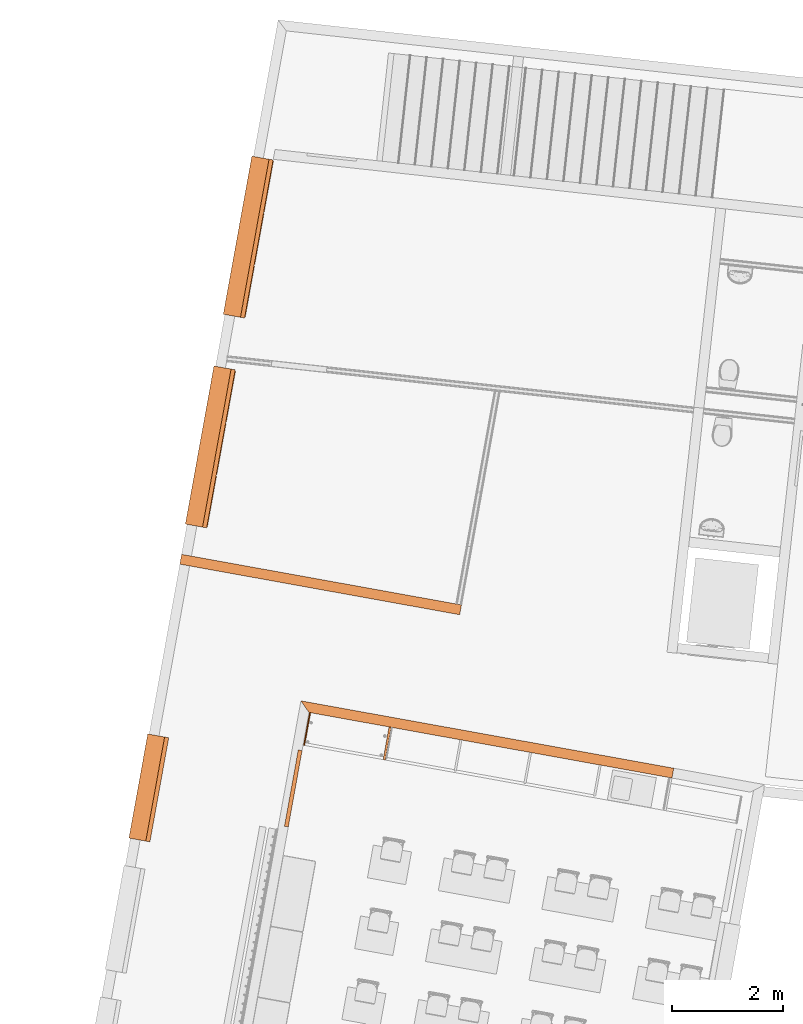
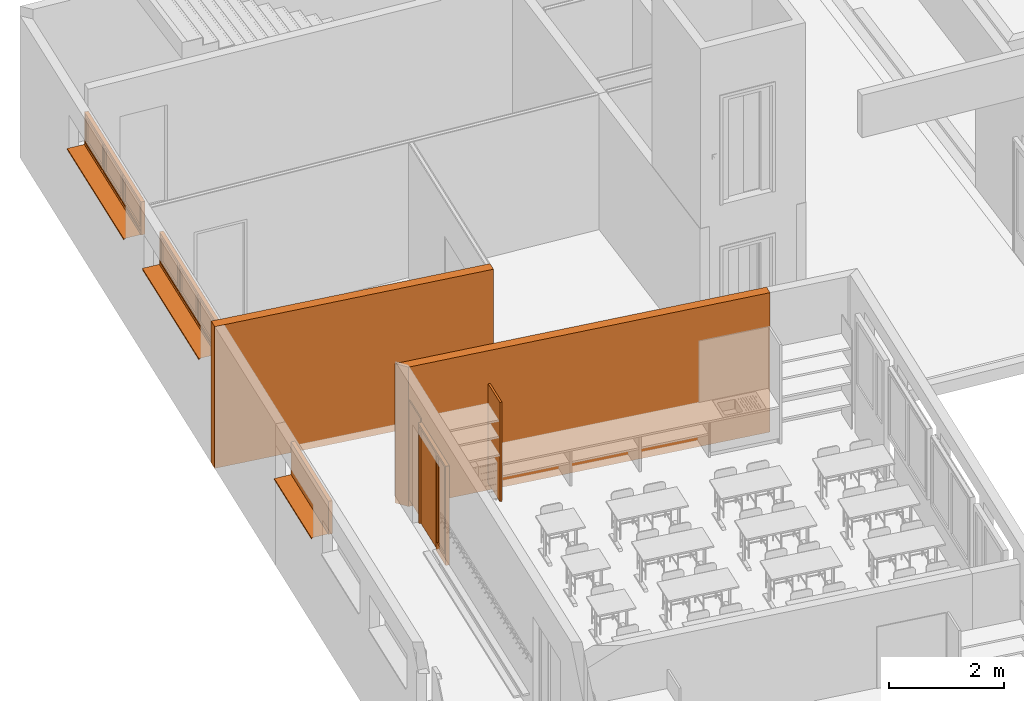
# One storey, part 48 of 79: 8 proxies.
"""IFC2X3 building model written with IfcOpenShell, lengths in metres."""

from ifc_helpers import new_model, entity, si_unit, converted_unit, derived_unit, money_unit, direction, frame, origin_with_axes, place, context, subcontext, project, spatial, polyline, outline, extrude, open_shell, faceted_brep, surface_model, source, transform, mapped, material, type_object, element, save


model = new_model("IFC2X3")

# Units and contexts
model_context = context("Model", 3, precision=1e-05, world=origin_with_axes(), true_north=direction((0.0, 1.0)))
body_context = subcontext(model_context, "Body", "Model", "MODEL_VIEW")
ifc_project = project(units=[si_unit("LENGTHUNIT", "METRE"), si_unit("AREAUNIT", "SQUARE_METRE"), si_unit("VOLUMEUNIT", "CUBIC_METRE"), converted_unit("PLANEANGLEUNIT", "DEGREE", entity("IfcPlaneAngleMeasure", 0.0174532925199), si_unit("PLANEANGLEUNIT", "RADIAN"), dimensions=[0, 0, 0, 0, 0, 0, 0]), money_unit("CHF"), converted_unit("TIMEUNIT", "Year", entity("IfcTimeMeasure", 31556926.0), si_unit("TIMEUNIT", "SECOND"), dimensions=[0, 0, 1, 0, 0, 0, 0]), si_unit("MASSUNIT", "GRAM", prefix="KILO"), si_unit("THERMODYNAMICTEMPERATUREUNIT", "DEGREE_CELSIUS"), si_unit("LUMINOUSINTENSITYUNIT", "LUMEN"), si_unit("ENERGYUNIT", "JOULE", prefix="MEGA"), derived_unit("THERMALCONDUCTANCEUNIT", [(si_unit("POWERUNIT", "WATT"), 1), (si_unit("LENGTHUNIT", "METRE"), -1), (si_unit("THERMODYNAMICTEMPERATUREUNIT", "KELVIN"), -1)]), derived_unit("SPECIFICHEATCAPACITYUNIT", [(si_unit("ENERGYUNIT", "JOULE"), 1), (si_unit("MASSUNIT", "GRAM", prefix="KILO"), -1), (si_unit("THERMODYNAMICTEMPERATUREUNIT", "KELVIN"), -1)]), derived_unit("MASSDENSITYUNIT", [(si_unit("MASSUNIT", "GRAM", prefix="KILO"), 1), (si_unit("VOLUMEUNIT", "CUBIC_METRE"), -1)])], contexts=[model_context])

# Site, building, storey
site_placement = place(None, frame((0.0, 0.0, 0.0), z_axis=(0.0, 0.0, 1.0), x_axis=(-0.177771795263, -0.984071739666, 0.0)))
site = spatial("IfcSite", under=ifc_project, at=site_placement, Name="Site", CompositionType="ELEMENT")
building_placement = place(site_placement, origin_with_axes())
building = spatial("IfcBuilding", under=site, at=building_placement, Name="Bâtiment", CompositionType="ELEMENT")
storey_placement = place(building_placement, origin_with_axes())
storey = spatial("IfcBuildingStorey", under=building, at=storey_placement, Name="RDC", CompositionType="ELEMENT", Elevation=0.0)

# Proxies
ifc_material_1 = material(Name="_BA banché RAL9007")
building_element_proxy_type_1 = type_object("IfcBuildingElementProxyType", Name="_BA banché RAL9007 180", PredefinedType="NOTDEFINED")
proxy_1_placement = place(storey_placement, frame((109.924841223, -156.627151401, -0.15), z_axis=(0.0, 0.0, 1.0), x_axis=(0.0, 1.0, 0.0)))
element("IfcBuildingElementProxy", 1, at=proxy_1_placement, inside=storey, type_object=building_element_proxy_type_1, material=ifc_material_1, Name="M refend", context=body_context, shape_type="SweptSolid", body=[
    extrude(outline(polyline([(0.180000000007, -0.18), (6.84100000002, -0.18), (6.84100000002, 0.0), (0.0, 0.0), (0.180000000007, -0.18)])), origin_with_axes(), (0.0, 0.0, 1.0), 2.95),
])
ifc_material_2 = material(Name="Matériau de construction IFC")
building_element_proxy_type_2 = type_object("IfcBuildingElementProxyType", Name="Fenêtre variable 21", PredefinedType="NOTDEFINED")
shared_shape_1 = source(origin_with_axes(), body_context, "Body", "SurfaceModel", [
    surface_model("IfcShellBasedSurfaceModel", [(0.0, 0.284, 0.02), (0.0, 0.284, 0.01), (1.91, 0.284, 0.01), (1.91, 0.284, 0.02), (0.0, -0.025, -0.00087719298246), (1.91, -0.025, -0.00087719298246), (0.0, -0.025, -0.0308771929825), (1.91, -0.025, -0.0308771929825), (0.0, -0.0125, -0.0183771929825), (1.91, -0.0125, -0.0183771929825)], [open_shell([[[0, 1, 2, 3]], [[1, 4, 5, 2]], [[4, 6, 7, 5]], [[6, 8, 9, 7]]])]),
    faceted_brep([(0.075, 0.285, 0.625), (0.075, 0.36, 0.625), (0.0, 0.36, 0.625), (0.0, 0.285, 0.625), (0.075, 0.285, 0.075), (0.075, 0.36, 0.075), (0.0, 0.36, 0.075), (0.0, 0.285, 0.075)], [[[0, 1, 2, 3]], [[4, 5, 1, 0]], [[1, 5, 6, 2]], [[3, 2, 6, 7]], [[0, 3, 7, 4]], [[7, 6, 5, 4]]]),
    faceted_brep([(1.835, 0.285, 0.075), (1.835, 0.36, 0.075), (1.91, 0.36, 0.075), (1.91, 0.285, 0.075), (1.835, 0.285, 0.625), (1.835, 0.36, 0.625), (1.91, 0.36, 0.625), (1.91, 0.285, 0.625)], [[[0, 1, 2, 3]], [[4, 5, 1, 0]], [[1, 5, 6, 2]], [[3, 2, 6, 7]], [[0, 3, 7, 4]], [[7, 6, 5, 4]]]),
    faceted_brep([(0.075, 0.285, 0.075), (0.075, 0.36, 0.075), (0.0, 0.36, 0.075), (0.0, 0.285, 0.075), (1.835, 0.285, 0.075), (1.835, 0.36, 0.075), (1.91, 0.36, 0.075), (1.91, 0.36, 0.0), (0.0, 0.36, 0.0), (0.0, 0.285, 0.0), (1.91, 0.285, 0.0), (1.91, 0.285, 0.075)], [[[0, 1, 2, 3]], [[4, 5, 1, 0]], [[1, 5, 6, 7, 8, 2]], [[3, 2, 8, 9]], [[0, 3, 9, 10, 11, 4]], [[11, 6, 5, 4]], [[10, 7, 6, 11]], [[9, 8, 7, 10]]]),
    faceted_brep([(1.835, 0.285, 0.625), (1.835, 0.36, 0.625), (1.91, 0.36, 0.625), (1.91, 0.285, 0.625), (0.075, 0.285, 0.625), (0.075, 0.36, 0.625), (0.0, 0.36, 0.625), (0.0, 0.36, 0.7), (1.91, 0.36, 0.7), (1.91, 0.285, 0.7), (0.0, 0.285, 0.7), (0.0, 0.285, 0.625)], [[[0, 1, 2, 3]], [[4, 5, 1, 0]], [[1, 5, 6, 7, 8, 2]], [[3, 2, 8, 9]], [[0, 3, 9, 10, 11, 4]], [[11, 6, 5, 4]], [[10, 7, 6, 11]], [[9, 8, 7, 10]]]),
    surface_model("IfcShellBasedSurfaceModel", [(0.075, 0.285, 0.075), (1.835, 0.285, 0.075), (1.835, 0.285, 0.625), (0.075, 0.285, 0.625)], [open_shell([[[0, 1, 2, 3]]])]),
    surface_model("IfcShellBasedSurfaceModel", [(0.075, 0.305, 0.075), (0.075, 0.305, 0.625), (1.835, 0.305, 0.625), (1.835, 0.305, 0.075)], [open_shell([[[0, 1, 2, 3]]])]),
])
proxy_2_placement = place(storey_placement, frame((111.004841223, -159.217107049, 1.7), z_axis=(0.0, 0.0, 1.0), x_axis=(1.0, 0.0, 0.0)))
element("IfcBuildingElementProxy", 2, at=proxy_2_placement, inside=storey, type_object=building_element_proxy_type_2, material=ifc_material_2, Name="Fen couloir", context=body_context, shape_type="MappedRepresentation", body=[
    mapped(shared_shape_1, transform((0.0, 0.0, 0.0))),
])
ifc_material_3 = material(Name="_panneau mélaminé")
building_element_proxy_type_3 = type_object("IfcBuildingElementProxyType", Name="_panneau mélaminé 40", PredefinedType="NOTDEFINED")
proxy_3_placement = place(storey_placement, frame((110.704841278, -154.978236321, 0.0), z_axis=(0.0, 0.0, 1.0), x_axis=(-1.0, 0.0, 0.0)))
element("IfcBuildingElementProxy", 3, at=proxy_3_placement, inside=storey, type_object=building_element_proxy_type_3, material=ifc_material_3, Name="cloison-fd-classe G", context=body_context, shape_type="SweptSolid", body=[
    extrude(outline(polyline([(0.0, -0.04), (0.600000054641, -0.04), (0.600000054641, 0.0), (0.0, 0.0), (0.0, -0.04)])), origin_with_axes(), (0.0, 0.0, 1.0), 2.1),
])
building_element_proxy_type_4 = type_object("IfcBuildingElementProxyType", Name="_panneau mélaminé 19", PredefinedType="NOTDEFINED")
proxy_4_placement = place(storey_placement, frame((110.704841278, -156.418151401, 0.0), z_axis=(0.0, 0.0, 1.0), x_axis=(-1.0, 0.0, 0.0)))
element("IfcBuildingElementProxy", 4, at=proxy_4_placement, inside=storey, type_object=building_element_proxy_type_4, material=ifc_material_3, Name="cloison-fd-classe G", context=body_context, shape_type="SweptSolid", body=[
    extrude(outline(polyline([(0.0, 0.0), (0.600000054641, 0.0), (0.600000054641, 0.019), (0.0, 0.019), (0.0, 0.0)])), origin_with_axes(), (0.0, 0.0, 1.0), 2.1),
])
building_element_proxy_type_5 = type_object("IfcBuildingElementProxyType", Name="Porte avec tierce vitrée côté 2 21", PredefinedType="NOTDEFINED")
shared_shape_2 = source(origin_with_axes(), body_context, "Body", "SurfaceModel", [
    faceted_brep([(1.4, 0.180000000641, 0.0), (1.4, 0.110000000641, 0.0), (1.35, 0.110000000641, 0.0), (1.35, 0.180000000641, 0.0), (1.4, 0.180000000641, 2.05), (1.4, 0.110000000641, 2.05), (1.35, 0.110000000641, 2.05), (1.35, 0.110000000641, 0.2), (1.35, 0.180000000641, 0.2), (1.35, 0.180000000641, 2.05)], [[[0, 1, 2, 3]], [[4, 5, 1, 0]], [[1, 5, 6, 7, 2]], [[3, 2, 7, 8]], [[0, 3, 8, 9, 4]], [[9, 6, 5, 4]], [[8, 7, 6, 9]]]),
    faceted_brep([(0.91, 0.140000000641, 0.0), (0.91, 0.110000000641, 0.0), (0.91, 0.110000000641, 2.05), (0.91, 0.140000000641, 2.05), (0.93, 0.140000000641, 0.0), (0.93, 0.180000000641, 0.0), (0.96, 0.180000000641, 0.0), (0.96, 0.110000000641, 0.0), (0.96, 0.110000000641, 0.2), (0.96, 0.110000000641, 2.05), (0.93, 0.140000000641, 2.05), (0.96, 0.180000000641, 2.05), (0.93, 0.180000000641, 2.05), (0.96, 0.180000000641, 0.2)], [[[0, 1, 2, 3]], [[4, 5, 6, 7, 1, 0]], [[7, 8, 9, 2, 1]], [[10, 3, 2, 9, 11, 12]], [[10, 4, 0, 3]], [[12, 5, 4, 10]], [[12, 11, 13, 6, 5]], [[6, 13, 8, 7]], [[13, 11, 9, 8]]]),
    faceted_brep([(1.35, 0.180000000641, 0.2), (1.35, 0.110000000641, 0.2), (1.35, 0.110000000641, 0.0), (1.35, 0.180000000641, 0.0), (0.96, 0.180000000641, 0.2), (0.96, 0.110000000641, 0.2), (0.96, 0.110000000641, 0.0), (0.96, 0.180000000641, 0.0)], [[[0, 1, 2, 3]], [[4, 5, 1, 0]], [[1, 5, 6, 2]], [[3, 2, 6, 7]], [[0, 3, 7, 4]], [[7, 6, 5, 4]]]),
    faceted_brep([(0.03, 0.140000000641, 2.05), (0.03, 0.180000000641, 2.05), (0.0, 0.180000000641, 2.05), (0.0, 0.110000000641, 2.05), (0.05, 0.110000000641, 2.05), (0.05, 0.140000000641, 2.05), (0.03, 0.140000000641, 0.0), (0.03, 0.180000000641, 0.0), (0.0, 0.180000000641, 0.0), (0.0, 0.110000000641, 0.0), (0.05, 0.110000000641, 0.0), (0.05, 0.140000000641, 0.0)], [[[0, 1, 2, 3, 4, 5]], [[0, 6, 7, 1]], [[7, 8, 2, 1]], [[2, 8, 9, 3]], [[3, 9, 10, 4]], [[5, 4, 10, 11]], [[5, 11, 6, 0]], [[6, 11, 10, 9, 8, 7]]]),
    faceted_brep([(0.93, 0.180000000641, 2.07), (0.03, 0.180000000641, 2.07), (0.03, 0.180000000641, 2.05), (0.0, 0.180000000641, 2.05), (0.0, 0.180000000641, 2.1), (1.4, 0.180000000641, 2.1), (1.4, 0.180000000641, 2.05), (1.35, 0.180000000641, 2.05), (0.96, 0.180000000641, 2.05), (0.93, 0.180000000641, 2.05), (0.93, 0.140000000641, 2.07), (0.03, 0.140000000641, 2.07), (0.03, 0.140000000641, 2.05), (0.05, 0.140000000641, 2.05), (0.05, 0.110000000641, 2.05), (0.0, 0.110000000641, 2.05), (0.0, 0.110000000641, 2.1), (1.4, 0.110000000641, 2.1), (1.4, 0.110000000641, 2.05), (1.35, 0.110000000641, 2.05), (0.96, 0.110000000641, 2.05), (0.93, 0.140000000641, 2.05), (0.91, 0.110000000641, 2.05)], [[[0, 1, 2, 3, 4, 5, 6, 7, 8, 9]], [[0, 10, 11, 1]], [[1, 11, 12, 2]], [[12, 13, 14, 15, 3, 2]], [[4, 3, 15, 16]], [[5, 4, 16, 17]], [[6, 5, 17, 18]], [[7, 6, 18, 19]], [[8, 7, 19, 20]], [[21, 9, 8, 20, 22, 14, 13]], [[9, 21, 10, 0]], [[12, 11, 10, 21, 13]], [[14, 22, 20, 19, 18, 17, 16, 15]]]),
    faceted_brep([(0.03, 0.180000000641, 0.0), (0.93, 0.180000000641, 0.0), (0.93, 0.140000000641, 0.0), (0.03, 0.140000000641, 0.0), (0.03, 0.180000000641, 2.07), (0.93, 0.180000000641, 2.07), (0.93, 0.140000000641, 2.07), (0.03, 0.140000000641, 2.07)], [[[0, 1, 2, 3]], [[0, 4, 5, 1]], [[1, 5, 6, 2]], [[3, 2, 6, 7]], [[4, 0, 3, 7]], [[5, 4, 7, 6]]]),
    surface_model("IfcShellBasedSurfaceModel", [(1.35, 0.145000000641, 0.2), (0.96, 0.145000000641, 0.2), (0.96, 0.145000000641, 2.05), (1.35, 0.145000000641, 2.05)], [open_shell([[[0, 1, 2, 3]]])]),
    surface_model("IfcShellBasedSurfaceModel", [(1.35, 0.135000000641, 0.2), (1.35, 0.135000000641, 2.05), (0.96, 0.135000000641, 2.05), (0.96, 0.135000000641, 0.2)], [open_shell([[[0, 1, 2, 3]]])]),
])
proxy_5_placement = place(storey_placement, frame((110.804841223, -156.627151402, 0.0), z_axis=(0.0, 0.0, 1.0), x_axis=(1.0, 0.0, 0.0)))
element("IfcBuildingElementProxy", 5, at=proxy_5_placement, inside=storey, type_object=building_element_proxy_type_5, material=ifc_material_2, Name="1", context=body_context, shape_type="MappedRepresentation", body=[
    mapped(shared_shape_2, transform((0.0, 0.0, 0.0))),
])
building_element_proxy_type_6 = type_object("IfcBuildingElementProxyType", Name="Fenêtre horizontale à châssis multiples 21", PredefinedType="NOTDEFINED")
shared_shape_3 = source(origin_with_axes(), body_context, "Body", "SurfaceModel", [
    surface_model("IfcShellBasedSurfaceModel", [(2.9, 0.284, 0.02), (0.0, 0.284, 0.02), (0.0, 0.284, 0.01), (2.9, 0.284, 0.01), (0.0, -0.03, -0.00105263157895), (2.9, -0.03, -0.00105263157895), (0.0, -0.03, -0.0310526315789), (2.9, -0.03, -0.0310526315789), (0.0, -0.015, -0.0160526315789), (2.9, -0.015, -0.0160526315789)], [open_shell([[[0, 1, 2, 3]], [[3, 2, 4, 5]], [[5, 4, 6, 7]], [[7, 6, 8, 9]]])]),
    faceted_brep([(2.88, 0.36, 0.67), (2.88, 0.295, 0.67), (2.87, 0.295, 0.67), (2.87, 0.285, 0.67), (2.9, 0.285, 0.67), (2.9, 0.36, 0.67), (2.88, 0.36, 0.07), (2.88, 0.295, 0.07), (2.87, 0.295, 0.07), (2.87, 0.285, 0.07), (2.9, 0.285, 0.07), (2.9, 0.36, 0.07)], [[[0, 1, 2, 3, 4, 5]], [[1, 0, 6, 7]], [[8, 2, 1, 7]], [[2, 8, 9, 3]], [[4, 3, 9, 10]], [[5, 4, 10, 11]], [[6, 0, 5, 11]], [[7, 6, 11, 10, 9, 8]]]),
    faceted_brep([(0.03, 0.295, 0.67), (0.02, 0.295, 0.67), (0.02, 0.36, 0.67), (0.0, 0.36, 0.67), (0.0, 0.285, 0.67), (0.03, 0.285, 0.67), (0.03, 0.295, 0.07), (0.02, 0.295, 0.07), (0.02, 0.36, 0.07), (0.0, 0.36, 0.07), (0.0, 0.285, 0.07), (0.03, 0.285, 0.07)], [[[0, 1, 2, 3, 4, 5]], [[1, 0, 6, 7]], [[8, 2, 1, 7]], [[2, 8, 9, 3]], [[9, 10, 4, 3]], [[10, 11, 5, 4]], [[6, 0, 5, 11]], [[7, 6, 11, 10, 9, 8]]]),
    faceted_brep([(1.91666666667, 0.36, 0.67), (1.91666666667, 0.36, 0.68), (0.983333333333, 0.36, 0.68), (0.983333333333, 0.36, 0.67), (0.953333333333, 0.36, 0.67), (0.953333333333, 0.36, 0.68), (0.02, 0.36, 0.68), (0.02, 0.36, 0.67), (0.0, 0.36, 0.67), (0.0, 0.36, 0.7), (2.9, 0.36, 0.7), (2.9, 0.36, 0.67), (2.88, 0.36, 0.67), (2.88, 0.36, 0.68), (1.94666666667, 0.36, 0.68), (1.94666666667, 0.36, 0.67), (1.91666666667, 0.295, 0.67), (1.91666666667, 0.295, 0.68), (0.983333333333, 0.295, 0.68), (0.983333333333, 0.295, 0.67), (0.993333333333, 0.295, 0.67), (0.993333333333, 0.285, 0.67), (0.943333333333, 0.285, 0.67), (0.943333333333, 0.295, 0.67), (0.953333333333, 0.295, 0.67), (0.953333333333, 0.295, 0.68), (0.02, 0.295, 0.68), (0.02, 0.295, 0.67), (0.03, 0.295, 0.67), (0.03, 0.285, 0.67), (0.0, 0.285, 0.67), (0.0, 0.285, 0.7), (2.9, 0.285, 0.7), (2.9, 0.285, 0.67), (2.88, 0.295, 0.67), (2.87, 0.285, 0.67), (2.87, 0.295, 0.67), (2.88, 0.295, 0.68), (1.94666666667, 0.295, 0.68), (1.94666666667, 0.295, 0.67), (1.95666666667, 0.295, 0.67), (1.95666666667, 0.285, 0.67), (1.90666666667, 0.285, 0.67), (1.90666666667, 0.295, 0.67)], [[[0, 1, 2, 3, 4, 5, 6, 7, 8, 9, 10, 11, 12, 13, 14, 15]], [[1, 0, 16, 17]], [[2, 1, 17, 18]], [[3, 2, 18, 19]], [[19, 20, 21, 22, 23, 24, 4, 3]], [[5, 4, 24, 25]], [[6, 5, 25, 26]], [[7, 6, 26, 27]], [[27, 28, 29, 30, 8, 7]], [[8, 30, 31, 9]], [[9, 31, 32, 10]], [[10, 32, 33, 11]], [[34, 12, 11, 33, 35, 36]], [[13, 12, 34, 37]], [[14, 13, 37, 38]], [[15, 14, 38, 39]], [[16, 0, 15, 39, 40, 41, 42, 43]], [[20, 19, 18, 17, 16, 43]], [[20, 43, 42, 21]], [[30, 29, 22, 21, 42, 41, 35, 33, 32, 31]], [[28, 23, 22, 29]], [[28, 27, 26, 25, 24, 23]], [[40, 36, 35, 41]], [[40, 39, 38, 37, 34, 36]]]),
    faceted_brep([(0.993333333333, 0.295, 0.07), (0.983333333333, 0.295, 0.07), (0.983333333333, 0.36, 0.07), (0.953333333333, 0.36, 0.07), (0.953333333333, 0.295, 0.07), (0.943333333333, 0.295, 0.07), (0.943333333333, 0.285, 0.07), (0.993333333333, 0.285, 0.07), (1.90666666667, 0.295, 0.07), (1.91666666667, 0.295, 0.07), (1.91666666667, 0.295, 0.06), (0.983333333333, 0.295, 0.06), (0.983333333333, 0.36, 0.06), (1.91666666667, 0.36, 0.06), (1.91666666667, 0.36, 0.07), (1.94666666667, 0.36, 0.07), (1.94666666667, 0.36, 0.06), (2.88, 0.36, 0.06), (2.88, 0.36, 0.07), (2.9, 0.36, 0.07), (2.9, 0.36, 0.0), (0.0, 0.36, 0.0), (0.0, 0.36, 0.07), (0.02, 0.36, 0.07), (0.02, 0.36, 0.06), (0.953333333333, 0.36, 0.06), (0.953333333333, 0.295, 0.06), (0.02, 0.295, 0.07), (0.03, 0.295, 0.07), (0.02, 0.295, 0.06), (0.03, 0.285, 0.07), (0.0, 0.285, 0.07), (0.0, 0.285, 0.0), (2.9, 0.285, 0.0), (2.9, 0.285, 0.07), (2.87, 0.285, 0.07), (1.95666666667, 0.285, 0.07), (1.90666666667, 0.285, 0.07), (1.95666666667, 0.295, 0.07), (1.94666666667, 0.295, 0.07), (1.94666666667, 0.295, 0.06), (2.88, 0.295, 0.06), (2.88, 0.295, 0.07), (2.87, 0.295, 0.07)], [[[0, 1, 2, 3, 4, 5, 6, 7]], [[1, 0, 8, 9, 10, 11]], [[12, 2, 1, 11]], [[13, 14, 15, 16, 17, 18, 19, 20, 21, 22, 23, 24, 25, 3, 2, 12]], [[4, 3, 25, 26]], [[27, 28, 5, 4, 26, 29]], [[5, 28, 30, 6]], [[7, 6, 30, 31, 32, 33, 34, 35, 36, 37]], [[8, 0, 7, 37]], [[9, 8, 37, 36, 38, 39, 15, 14]], [[9, 14, 13, 10]], [[13, 12, 11, 10]], [[16, 15, 39, 40]], [[17, 16, 40, 41]], [[42, 18, 17, 41]], [[42, 43, 35, 34, 19, 18]], [[19, 34, 33, 20]], [[20, 33, 32, 21]], [[21, 32, 31, 22]], [[28, 27, 23, 22, 31, 30]], [[24, 23, 27, 29]], [[25, 24, 29, 26]], [[43, 38, 36, 35]], [[39, 38, 43, 42, 41, 40]]]),
    faceted_brep([(1.91666666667, 0.36, 0.67), (1.91666666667, 0.295, 0.67), (1.90666666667, 0.295, 0.67), (1.90666666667, 0.285, 0.67), (1.95666666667, 0.285, 0.67), (1.95666666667, 0.295, 0.67), (1.94666666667, 0.295, 0.67), (1.94666666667, 0.36, 0.67), (1.91666666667, 0.36, 0.07), (1.91666666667, 0.295, 0.07), (1.90666666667, 0.295, 0.07), (1.90666666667, 0.285, 0.07), (1.95666666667, 0.285, 0.07), (1.95666666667, 0.295, 0.07), (1.94666666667, 0.295, 0.07), (1.94666666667, 0.36, 0.07)], [[[0, 1, 2, 3, 4, 5, 6, 7]], [[1, 0, 8, 9]], [[10, 2, 1, 9]], [[2, 10, 11, 3]], [[3, 11, 12, 4]], [[13, 5, 4, 12]], [[6, 5, 13, 14]], [[15, 7, 6, 14]], [[8, 0, 7, 15]], [[9, 8, 15, 14, 13, 12, 11, 10]]]),
    faceted_brep([(0.993333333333, 0.295, 0.67), (0.983333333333, 0.295, 0.67), (0.983333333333, 0.36, 0.67), (0.953333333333, 0.36, 0.67), (0.953333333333, 0.295, 0.67), (0.943333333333, 0.295, 0.67), (0.943333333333, 0.285, 0.67), (0.993333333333, 0.285, 0.67), (0.993333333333, 0.295, 0.07), (0.983333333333, 0.295, 0.07), (0.983333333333, 0.36, 0.07), (0.953333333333, 0.36, 0.07), (0.953333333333, 0.295, 0.07), (0.943333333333, 0.295, 0.07), (0.943333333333, 0.285, 0.07), (0.993333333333, 0.285, 0.07)], [[[0, 1, 2, 3, 4, 5, 6, 7]], [[1, 0, 8, 9]], [[10, 2, 1, 9]], [[2, 10, 11, 3]], [[4, 3, 11, 12]], [[13, 5, 4, 12]], [[5, 13, 14, 6]], [[6, 14, 15, 7]], [[8, 0, 7, 15]], [[9, 8, 15, 14, 13, 12, 11, 10]]]),
    faceted_brep([(2.82, 0.295, 0.62), (2.88, 0.295, 0.62), (2.88, 0.37, 0.62), (2.82, 0.37, 0.62), (2.82, 0.295, 0.12), (2.88, 0.295, 0.12), (2.88, 0.37, 0.12), (2.82, 0.37, 0.12)], [[[0, 1, 2, 3]], [[0, 4, 5, 1]], [[1, 5, 6, 2]], [[3, 2, 6, 7]], [[4, 0, 3, 7]], [[5, 4, 7, 6]]]),
    faceted_brep([(2.00666666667, 0.295, 0.12), (1.94666666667, 0.295, 0.12), (1.94666666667, 0.37, 0.12), (2.00666666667, 0.37, 0.12), (2.00666666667, 0.295, 0.62), (1.94666666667, 0.295, 0.62), (1.94666666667, 0.37, 0.62), (2.00666666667, 0.37, 0.62)], [[[0, 1, 2, 3]], [[0, 4, 5, 1]], [[1, 5, 6, 2]], [[3, 2, 6, 7]], [[4, 0, 3, 7]], [[5, 4, 7, 6]]]),
    faceted_brep([(1.94666666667, 0.295, 0.06), (1.94666666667, 0.295, 0.12), (1.94666666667, 0.37, 0.12), (1.94666666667, 0.37, 0.06), (2.88, 0.295, 0.06), (2.88, 0.295, 0.12), (2.82, 0.295, 0.12), (2.00666666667, 0.295, 0.12), (2.00666666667, 0.37, 0.12), (2.82, 0.37, 0.12), (2.88, 0.37, 0.12), (2.88, 0.37, 0.06)], [[[0, 1, 2, 3]], [[0, 4, 5, 6, 7, 1]], [[1, 7, 8, 2]], [[3, 2, 8, 9, 10, 11]], [[4, 0, 3, 11]], [[5, 4, 11, 10]], [[6, 5, 10, 9]], [[7, 6, 9, 8]]]),
    faceted_brep([(2.88, 0.295, 0.68), (2.88, 0.295, 0.62), (2.88, 0.37, 0.62), (2.88, 0.37, 0.68), (1.94666666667, 0.295, 0.68), (1.94666666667, 0.295, 0.62), (2.00666666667, 0.295, 0.62), (2.82, 0.295, 0.62), (2.82, 0.37, 0.62), (2.00666666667, 0.37, 0.62), (1.94666666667, 0.37, 0.62), (1.94666666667, 0.37, 0.68)], [[[0, 1, 2, 3]], [[0, 4, 5, 6, 7, 1]], [[1, 7, 8, 2]], [[3, 2, 8, 9, 10, 11]], [[4, 0, 3, 11]], [[5, 4, 11, 10]], [[6, 5, 10, 9]], [[7, 6, 9, 8]]]),
    surface_model("IfcShellBasedSurfaceModel", [(2.82, 0.3225, 0.12), (2.82, 0.3225, 0.62), (2.00666666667, 0.3225, 0.62), (2.00666666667, 0.3225, 0.12)], [open_shell([[[0, 1, 2, 3]]])]),
    surface_model("IfcShellBasedSurfaceModel", [(2.82, 0.3425, 0.12), (2.00666666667, 0.3425, 0.12), (2.00666666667, 0.3425, 0.62), (2.82, 0.3425, 0.62)], [open_shell([[[0, 1, 2, 3]]])]),
    faceted_brep([(1.85666666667, 0.295, 0.62), (1.91666666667, 0.295, 0.62), (1.91666666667, 0.37, 0.62), (1.85666666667, 0.37, 0.62), (1.85666666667, 0.295, 0.12), (1.91666666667, 0.295, 0.12), (1.91666666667, 0.37, 0.12), (1.85666666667, 0.37, 0.12)], [[[0, 1, 2, 3]], [[0, 4, 5, 1]], [[1, 5, 6, 2]], [[3, 2, 6, 7]], [[4, 0, 3, 7]], [[5, 4, 7, 6]]]),
    faceted_brep([(1.04333333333, 0.295, 0.12), (0.983333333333, 0.295, 0.12), (0.983333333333, 0.37, 0.12), (1.04333333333, 0.37, 0.12), (1.04333333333, 0.295, 0.62), (0.983333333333, 0.295, 0.62), (0.983333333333, 0.37, 0.62), (1.04333333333, 0.37, 0.62)], [[[0, 1, 2, 3]], [[0, 4, 5, 1]], [[1, 5, 6, 2]], [[3, 2, 6, 7]], [[4, 0, 3, 7]], [[5, 4, 7, 6]]]),
    faceted_brep([(0.983333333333, 0.295, 0.06), (0.983333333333, 0.295, 0.12), (0.983333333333, 0.37, 0.12), (0.983333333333, 0.37, 0.06), (1.91666666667, 0.295, 0.06), (1.91666666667, 0.295, 0.12), (1.85666666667, 0.295, 0.12), (1.04333333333, 0.295, 0.12), (1.04333333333, 0.37, 0.12), (1.85666666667, 0.37, 0.12), (1.91666666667, 0.37, 0.12), (1.91666666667, 0.37, 0.06)], [[[0, 1, 2, 3]], [[0, 4, 5, 6, 7, 1]], [[1, 7, 8, 2]], [[3, 2, 8, 9, 10, 11]], [[4, 0, 3, 11]], [[5, 4, 11, 10]], [[6, 5, 10, 9]], [[7, 6, 9, 8]]]),
    faceted_brep([(1.91666666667, 0.295, 0.68), (1.91666666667, 0.295, 0.62), (1.91666666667, 0.37, 0.62), (1.91666666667, 0.37, 0.68), (0.983333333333, 0.295, 0.68), (0.983333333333, 0.295, 0.62), (1.04333333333, 0.295, 0.62), (1.85666666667, 0.295, 0.62), (1.85666666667, 0.37, 0.62), (1.04333333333, 0.37, 0.62), (0.983333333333, 0.37, 0.62), (0.983333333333, 0.37, 0.68)], [[[0, 1, 2, 3]], [[0, 4, 5, 6, 7, 1]], [[1, 7, 8, 2]], [[3, 2, 8, 9, 10, 11]], [[4, 0, 3, 11]], [[5, 4, 11, 10]], [[6, 5, 10, 9]], [[7, 6, 9, 8]]]),
    surface_model("IfcShellBasedSurfaceModel", [(1.85666666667, 0.3225, 0.12), (1.85666666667, 0.3225, 0.62), (1.04333333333, 0.3225, 0.62), (1.04333333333, 0.3225, 0.12)], [open_shell([[[0, 1, 2, 3]]])]),
    surface_model("IfcShellBasedSurfaceModel", [(1.85666666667, 0.3425, 0.12), (1.04333333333, 0.3425, 0.12), (1.04333333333, 0.3425, 0.62), (1.85666666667, 0.3425, 0.62)], [open_shell([[[0, 1, 2, 3]]])]),
    faceted_brep([(0.893333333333, 0.295, 0.62), (0.953333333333, 0.295, 0.62), (0.953333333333, 0.37, 0.62), (0.893333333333, 0.37, 0.62), (0.893333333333, 0.295, 0.12), (0.953333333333, 0.295, 0.12), (0.953333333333, 0.37, 0.12), (0.893333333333, 0.37, 0.12)], [[[0, 1, 2, 3]], [[0, 4, 5, 1]], [[1, 5, 6, 2]], [[3, 2, 6, 7]], [[4, 0, 3, 7]], [[5, 4, 7, 6]]]),
    faceted_brep([(0.08, 0.295, 0.12), (0.02, 0.295, 0.12), (0.02, 0.37, 0.12), (0.08, 0.37, 0.12), (0.08, 0.295, 0.62), (0.02, 0.295, 0.62), (0.02, 0.37, 0.62), (0.08, 0.37, 0.62)], [[[0, 1, 2, 3]], [[0, 4, 5, 1]], [[1, 5, 6, 2]], [[3, 2, 6, 7]], [[4, 0, 3, 7]], [[5, 4, 7, 6]]]),
    faceted_brep([(0.02, 0.295, 0.06), (0.02, 0.295, 0.12), (0.02, 0.37, 0.12), (0.02, 0.37, 0.06), (0.953333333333, 0.295, 0.06), (0.953333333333, 0.295, 0.12), (0.893333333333, 0.295, 0.12), (0.08, 0.295, 0.12), (0.08, 0.37, 0.12), (0.893333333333, 0.37, 0.12), (0.953333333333, 0.37, 0.12), (0.953333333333, 0.37, 0.06)], [[[0, 1, 2, 3]], [[0, 4, 5, 6, 7, 1]], [[1, 7, 8, 2]], [[3, 2, 8, 9, 10, 11]], [[4, 0, 3, 11]], [[5, 4, 11, 10]], [[6, 5, 10, 9]], [[7, 6, 9, 8]]]),
    faceted_brep([(0.953333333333, 0.295, 0.68), (0.953333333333, 0.295, 0.62), (0.953333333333, 0.37, 0.62), (0.953333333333, 0.37, 0.68), (0.02, 0.295, 0.68), (0.02, 0.295, 0.62), (0.08, 0.295, 0.62), (0.893333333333, 0.295, 0.62), (0.893333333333, 0.37, 0.62), (0.08, 0.37, 0.62), (0.02, 0.37, 0.62), (0.02, 0.37, 0.68)], [[[0, 1, 2, 3]], [[0, 4, 5, 6, 7, 1]], [[1, 7, 8, 2]], [[3, 2, 8, 9, 10, 11]], [[4, 0, 3, 11]], [[5, 4, 11, 10]], [[6, 5, 10, 9]], [[7, 6, 9, 8]]]),
    surface_model("IfcShellBasedSurfaceModel", [(0.893333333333, 0.3225, 0.12), (0.893333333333, 0.3225, 0.62), (0.08, 0.3225, 0.62), (0.08, 0.3225, 0.12)], [open_shell([[[0, 1, 2, 3]]])]),
    surface_model("IfcShellBasedSurfaceModel", [(0.893333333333, 0.3425, 0.12), (0.08, 0.3425, 0.12), (0.08, 0.3425, 0.62), (0.893333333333, 0.3425, 0.62)], [open_shell([[[0, 1, 2, 3]]])]),
])
for number, where, z_axis, x_axis, name in (
    (6, (100.403887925, -159.217107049, 1.7), (0.0, 0.0, 1.0), (1.0, 0.0, 0.0), "Fen bureau"),
    (7, (104.253887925, -159.217107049, 1.7), (0.0, 0.0, 1.0), (1.0, 0.0, 0.0), "Fen bureau"),
):
    element("IfcBuildingElementProxy", number, at=place(storey_placement, frame(where, z_axis=z_axis, x_axis=x_axis)), inside=storey, type_object=building_element_proxy_type_6, material=ifc_material_2, Name=name, context=body_context, shape_type="MappedRepresentation", body=[
        mapped(shared_shape_3, transform((0.0, 0.0, 0.0))),
    ])
building_element_proxy_type_7 = type_object("IfcBuildingElementProxyType", Name="_BA banché RAL9007 180", PredefinedType="NOTDEFINED")
proxy_6_placement = place(storey_placement, frame((107.884841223, -159.217107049, -0.15), z_axis=(0.0, 0.0, 1.0), x_axis=(0.0, 1.0, 0.0)))
element("IfcBuildingElementProxy", 8, at=proxy_6_placement, inside=storey, type_object=building_element_proxy_type_7, material=ifc_material_1, Name="M refend", context=body_context, shape_type="SweptSolid", body=[
    extrude(outline(polyline([(0.0, 0.0), (5.13443211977, 0.0), (5.13443211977, 0.18), (0.0, 0.18), (0.0, 0.0)])), origin_with_axes(), (0.0, 0.0, 1.0), 3.0),
])

save(model, "model.ifc")
